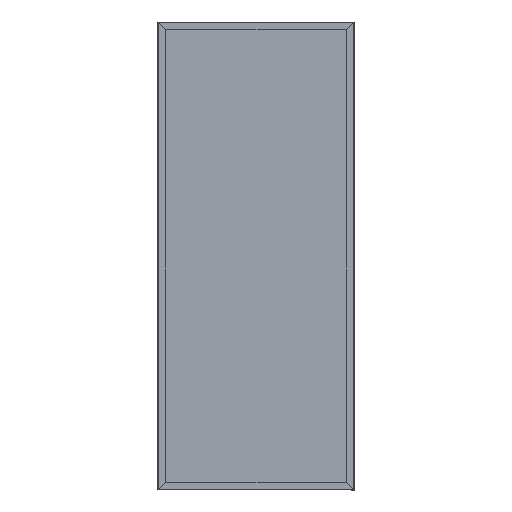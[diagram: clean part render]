
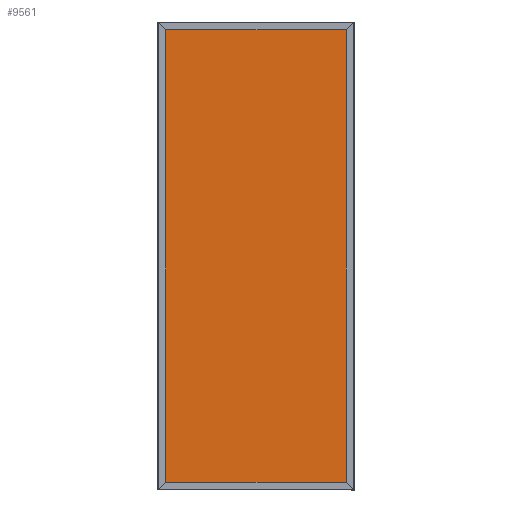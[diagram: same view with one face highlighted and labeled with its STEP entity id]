
A CAD part, top view. The second image highlights one B-rep face of the part: STEP entity #9561.
In plain terms, the highlighted planar face has unit normal (0, 0, 1).
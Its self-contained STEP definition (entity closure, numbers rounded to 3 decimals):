
#17 = CARTESIAN_POINT ( 'NONE',  ( -465.07, -1162.2, -13.25 ) ) ;
#188 = DIRECTION ( 'NONE',  ( 0., 1., 0. ) ) ;
#700 = CARTESIAN_POINT ( 'NONE',  ( 465.07, 0., -13.25 ) ) ;
#1047 = LINE ( 'NONE', #700, #8128 ) ;
#1354 = PLANE ( 'NONE',  #20262 ) ;
#2069 = CARTESIAN_POINT ( 'NONE',  ( 0., 1162.2, -13.25 ) ) ;
#2439 = EDGE_CURVE ( 'NONE', #19001, #9661, #1047, .T. ) ;
#3007 = DIRECTION ( 'NONE',  ( 0., 1., 0. ) ) ;
#3663 = EDGE_CURVE ( 'NONE', #9661, #12628, #20330, .T. ) ;
#4055 = CARTESIAN_POINT ( 'NONE',  ( 465.07, 1162.2, -13.25 ) ) ;
#4247 = EDGE_LOOP ( 'NONE', ( #9968, #16615, #21034, #12010 ) ) ;
#5434 = VECTOR ( 'NONE', #22648, 1000. ) ;
#5465 = VECTOR ( 'NONE', #18057, 1000. ) ;
#6752 = DIRECTION ( 'NONE',  ( -1., 0., 0. ) ) ;
#7558 = CARTESIAN_POINT ( 'NONE',  ( 465.07, -1162.2, -13.25 ) ) ;
#7781 = CARTESIAN_POINT ( 'NONE',  ( -465.07, 0., -13.25 ) ) ;
#8128 = VECTOR ( 'NONE', #3007, 1000. ) ;
#8825 = DIRECTION ( 'NONE',  ( 0., 0., -1. ) ) ;
#9561 = ADVANCED_FACE ( 'NONE', ( #23527 ), #1354, .F. ) ;
#9661 = VERTEX_POINT ( 'NONE', #4055 ) ;
#9968 = ORIENTED_EDGE ( 'NONE', *, *, #20601, .F. ) ;
#10416 = CARTESIAN_POINT ( 'NONE',  ( 0., 0., -13.25 ) ) ;
#11536 = VECTOR ( 'NONE', #188, 1000. ) ;
#12010 = ORIENTED_EDGE ( 'NONE', *, *, #3663, .T. ) ;
#12628 = VERTEX_POINT ( 'NONE', #16746 ) ;
#12920 = EDGE_CURVE ( 'NONE', #19001, #19918, #17705, .T. ) ;
#16220 = CARTESIAN_POINT ( 'NONE',  ( 0., -1162.2, -13.25 ) ) ;
#16615 = ORIENTED_EDGE ( 'NONE', *, *, #12920, .F. ) ;
#16746 = CARTESIAN_POINT ( 'NONE',  ( -465.07, 1162.2, -13.25 ) ) ;
#17082 = LINE ( 'NONE', #7781, #11536 ) ;
#17705 = LINE ( 'NONE', #16220, #5465 ) ;
#18057 = DIRECTION ( 'NONE',  ( -1., 0., 0. ) ) ;
#19001 = VERTEX_POINT ( 'NONE', #7558 ) ;
#19918 = VERTEX_POINT ( 'NONE', #17 ) ;
#20262 = AXIS2_PLACEMENT_3D ( 'NONE', #10416, #8825, #6752 ) ;
#20330 = LINE ( 'NONE', #2069, #5434 ) ;
#20601 = EDGE_CURVE ( 'NONE', #19918, #12628, #17082, .T. ) ;
#21034 = ORIENTED_EDGE ( 'NONE', *, *, #2439, .T. ) ;
#22648 = DIRECTION ( 'NONE',  ( -1., 0., 0. ) ) ;
#23527 = FACE_OUTER_BOUND ( 'NONE', #4247, .T. ) ;
